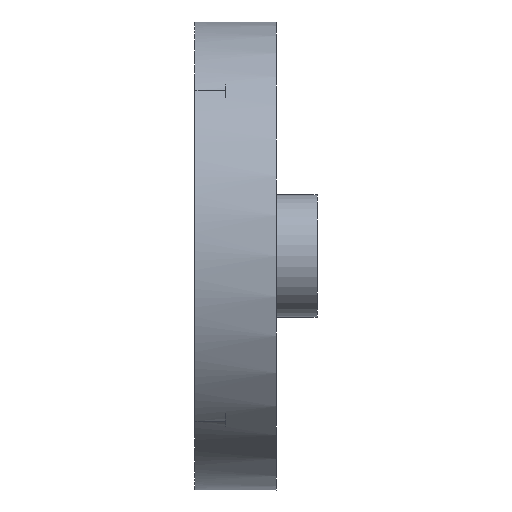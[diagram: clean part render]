
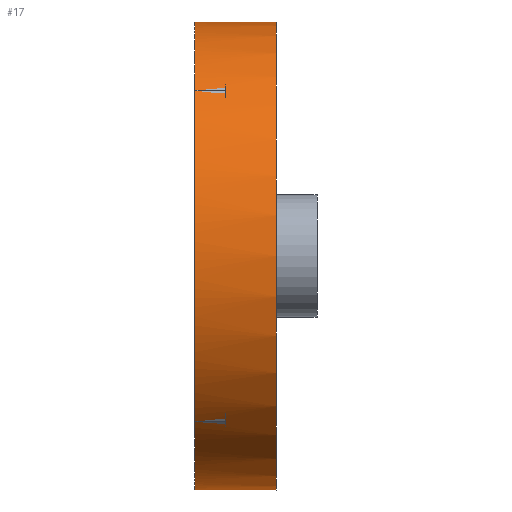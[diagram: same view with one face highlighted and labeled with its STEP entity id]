
A CAD part, front view. The second image highlights one B-rep face of the part: STEP entity #17.
In plain terms, the highlighted cylindrical face has radius 23 mm (diameter 46 mm), a full revolution.
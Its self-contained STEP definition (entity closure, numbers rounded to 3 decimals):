
#17 = ADVANCED_FACE('',(#18),#32,.T.);
#18 = FACE_BOUND('',#19,.F.);
#19 = EDGE_LOOP('',(#20,#50,#79,#103,#127,#151,#173,#174));
#20 = ORIENTED_EDGE('',*,*,#21,.F.);
#21 = EDGE_CURVE('',#22,#24,#26,.T.);
#22 = VERTEX_POINT('',#23);
#23 = CARTESIAN_POINT('',(36.5,23.,0.));
#24 = VERTEX_POINT('',#25);
#25 = CARTESIAN_POINT('',(44.5,23.,0.));
#26 = SEAM_CURVE('',#27,(#31,#43),.PCURVE_S1.);
#27 = LINE('',#28,#29);
#28 = CARTESIAN_POINT('',(36.5,23.,0.));
#29 = VECTOR('',#30,1.);
#30 = DIRECTION('',(1.,0.,0.));
#31 = PCURVE('',#32,#37);
#32 = CYLINDRICAL_SURFACE('',#33,23.);
#33 = AXIS2_PLACEMENT_3D('',#34,#35,#36);
#34 = CARTESIAN_POINT('',(36.5,0.,0.));
#35 = DIRECTION('',(-1.,-0.,-0.));
#36 = DIRECTION('',(0.,1.,0.));
#37 = DEFINITIONAL_REPRESENTATION('',(#38),#42);
#38 = LINE('',#39,#40);
#39 = CARTESIAN_POINT('',(-6.283,0.));
#40 = VECTOR('',#41,1.);
#41 = DIRECTION('',(-0.,-1.));
#42 = ( GEOMETRIC_REPRESENTATION_CONTEXT(2) 
PARAMETRIC_REPRESENTATION_CONTEXT() REPRESENTATION_CONTEXT('2D SPACE',''
  ) );
#43 = PCURVE('',#32,#44);
#44 = DEFINITIONAL_REPRESENTATION('',(#45),#49);
#45 = LINE('',#46,#47);
#46 = CARTESIAN_POINT('',(-0.,0.));
#47 = VECTOR('',#48,1.);
#48 = DIRECTION('',(-0.,-1.));
#49 = ( GEOMETRIC_REPRESENTATION_CONTEXT(2) 
PARAMETRIC_REPRESENTATION_CONTEXT() REPRESENTATION_CONTEXT('2D SPACE',''
  ) );
#50 = ORIENTED_EDGE('',*,*,#51,.F.);
#51 = EDGE_CURVE('',#52,#22,#54,.T.);
#52 = VERTEX_POINT('',#53);
#53 = CARTESIAN_POINT('',(36.5,16.263,-16.263));
#54 = SURFACE_CURVE('',#55,(#60,#67),.PCURVE_S1.);
#55 = CIRCLE('',#56,23.);
#56 = AXIS2_PLACEMENT_3D('',#57,#58,#59);
#57 = CARTESIAN_POINT('',(36.5,0.,0.));
#58 = DIRECTION('',(1.,0.,0.));
#59 = DIRECTION('',(0.,1.,0.));
#60 = PCURVE('',#32,#61);
#61 = DEFINITIONAL_REPRESENTATION('',(#62),#66);
#62 = LINE('',#63,#64);
#63 = CARTESIAN_POINT('',(-0.,0.));
#64 = VECTOR('',#65,1.);
#65 = DIRECTION('',(-1.,0.));
#66 = ( GEOMETRIC_REPRESENTATION_CONTEXT(2) 
PARAMETRIC_REPRESENTATION_CONTEXT() REPRESENTATION_CONTEXT('2D SPACE',''
  ) );
#67 = PCURVE('',#68,#73);
#68 = PLANE('',#69);
#69 = AXIS2_PLACEMENT_3D('',#70,#71,#72);
#70 = CARTESIAN_POINT('',(36.5,0.,0.));
#71 = DIRECTION('',(1.,0.,0.));
#72 = DIRECTION('',(-0.,0.,1.));
#73 = DEFINITIONAL_REPRESENTATION('',(#74),#78);
#74 = CIRCLE('',#75,23.);
#75 = AXIS2_PLACEMENT_2D('',#76,#77);
#76 = CARTESIAN_POINT('',(0.,0.));
#77 = DIRECTION('',(0.,-1.));
#78 = ( GEOMETRIC_REPRESENTATION_CONTEXT(2) 
PARAMETRIC_REPRESENTATION_CONTEXT() REPRESENTATION_CONTEXT('2D SPACE',''
  ) );
#79 = ORIENTED_EDGE('',*,*,#80,.F.);
#80 = EDGE_CURVE('',#81,#52,#83,.T.);
#81 = VERTEX_POINT('',#82);
#82 = CARTESIAN_POINT('',(36.5,-16.263,-16.263));
#83 = SURFACE_CURVE('',#84,(#89,#96),.PCURVE_S1.);
#84 = CIRCLE('',#85,23.);
#85 = AXIS2_PLACEMENT_3D('',#86,#87,#88);
#86 = CARTESIAN_POINT('',(36.5,0.,0.));
#87 = DIRECTION('',(1.,0.,0.));
#88 = DIRECTION('',(0.,1.,0.));
#89 = PCURVE('',#32,#90);
#90 = DEFINITIONAL_REPRESENTATION('',(#91),#95);
#91 = LINE('',#92,#93);
#92 = CARTESIAN_POINT('',(-0.,0.));
#93 = VECTOR('',#94,1.);
#94 = DIRECTION('',(-1.,0.));
#95 = ( GEOMETRIC_REPRESENTATION_CONTEXT(2) 
PARAMETRIC_REPRESENTATION_CONTEXT() REPRESENTATION_CONTEXT('2D SPACE',''
  ) );
#96 = PCURVE('',#68,#97);
#97 = DEFINITIONAL_REPRESENTATION('',(#98),#102);
#98 = CIRCLE('',#99,23.);
#99 = AXIS2_PLACEMENT_2D('',#100,#101);
#100 = CARTESIAN_POINT('',(0.,0.));
#101 = DIRECTION('',(0.,-1.));
#102 = ( GEOMETRIC_REPRESENTATION_CONTEXT(2) 
PARAMETRIC_REPRESENTATION_CONTEXT() REPRESENTATION_CONTEXT('2D SPACE',''
  ) );
#103 = ORIENTED_EDGE('',*,*,#104,.F.);
#104 = EDGE_CURVE('',#105,#81,#107,.T.);
#105 = VERTEX_POINT('',#106);
#106 = CARTESIAN_POINT('',(36.5,-16.263,16.263));
#107 = SURFACE_CURVE('',#108,(#113,#120),.PCURVE_S1.);
#108 = CIRCLE('',#109,23.);
#109 = AXIS2_PLACEMENT_3D('',#110,#111,#112);
#110 = CARTESIAN_POINT('',(36.5,0.,0.));
#111 = DIRECTION('',(1.,0.,0.));
#112 = DIRECTION('',(0.,1.,0.));
#113 = PCURVE('',#32,#114);
#114 = DEFINITIONAL_REPRESENTATION('',(#115),#119);
#115 = LINE('',#116,#117);
#116 = CARTESIAN_POINT('',(-0.,0.));
#117 = VECTOR('',#118,1.);
#118 = DIRECTION('',(-1.,0.));
#119 = ( GEOMETRIC_REPRESENTATION_CONTEXT(2) 
PARAMETRIC_REPRESENTATION_CONTEXT() REPRESENTATION_CONTEXT('2D SPACE',''
  ) );
#120 = PCURVE('',#68,#121);
#121 = DEFINITIONAL_REPRESENTATION('',(#122),#126);
#122 = CIRCLE('',#123,23.);
#123 = AXIS2_PLACEMENT_2D('',#124,#125);
#124 = CARTESIAN_POINT('',(0.,0.));
#125 = DIRECTION('',(0.,-1.));
#126 = ( GEOMETRIC_REPRESENTATION_CONTEXT(2) 
PARAMETRIC_REPRESENTATION_CONTEXT() REPRESENTATION_CONTEXT('2D SPACE',''
  ) );
#127 = ORIENTED_EDGE('',*,*,#128,.F.);
#128 = EDGE_CURVE('',#129,#105,#131,.T.);
#129 = VERTEX_POINT('',#130);
#130 = CARTESIAN_POINT('',(36.5,16.263,16.263));
#131 = SURFACE_CURVE('',#132,(#137,#144),.PCURVE_S1.);
#132 = CIRCLE('',#133,23.);
#133 = AXIS2_PLACEMENT_3D('',#134,#135,#136);
#134 = CARTESIAN_POINT('',(36.5,0.,0.));
#135 = DIRECTION('',(1.,0.,0.));
#136 = DIRECTION('',(0.,1.,0.));
#137 = PCURVE('',#32,#138);
#138 = DEFINITIONAL_REPRESENTATION('',(#139),#143);
#139 = LINE('',#140,#141);
#140 = CARTESIAN_POINT('',(-0.,0.));
#141 = VECTOR('',#142,1.);
#142 = DIRECTION('',(-1.,0.));
#143 = ( GEOMETRIC_REPRESENTATION_CONTEXT(2) 
PARAMETRIC_REPRESENTATION_CONTEXT() REPRESENTATION_CONTEXT('2D SPACE',''
  ) );
#144 = PCURVE('',#68,#145);
#145 = DEFINITIONAL_REPRESENTATION('',(#146),#150);
#146 = CIRCLE('',#147,23.);
#147 = AXIS2_PLACEMENT_2D('',#148,#149);
#148 = CARTESIAN_POINT('',(0.,0.));
#149 = DIRECTION('',(0.,-1.));
#150 = ( GEOMETRIC_REPRESENTATION_CONTEXT(2) 
PARAMETRIC_REPRESENTATION_CONTEXT() REPRESENTATION_CONTEXT('2D SPACE',''
  ) );
#151 = ORIENTED_EDGE('',*,*,#152,.F.);
#152 = EDGE_CURVE('',#22,#129,#153,.T.);
#153 = SURFACE_CURVE('',#154,(#159,#166),.PCURVE_S1.);
#154 = CIRCLE('',#155,23.);
#155 = AXIS2_PLACEMENT_3D('',#156,#157,#158);
#156 = CARTESIAN_POINT('',(36.5,0.,0.));
#157 = DIRECTION('',(1.,0.,0.));
#158 = DIRECTION('',(0.,1.,0.));
#159 = PCURVE('',#32,#160);
#160 = DEFINITIONAL_REPRESENTATION('',(#161),#165);
#161 = LINE('',#162,#163);
#162 = CARTESIAN_POINT('',(-0.,0.));
#163 = VECTOR('',#164,1.);
#164 = DIRECTION('',(-1.,0.));
#165 = ( GEOMETRIC_REPRESENTATION_CONTEXT(2) 
PARAMETRIC_REPRESENTATION_CONTEXT() REPRESENTATION_CONTEXT('2D SPACE',''
  ) );
#166 = PCURVE('',#68,#167);
#167 = DEFINITIONAL_REPRESENTATION('',(#168),#172);
#168 = CIRCLE('',#169,23.);
#169 = AXIS2_PLACEMENT_2D('',#170,#171);
#170 = CARTESIAN_POINT('',(0.,0.));
#171 = DIRECTION('',(0.,-1.));
#172 = ( GEOMETRIC_REPRESENTATION_CONTEXT(2) 
PARAMETRIC_REPRESENTATION_CONTEXT() REPRESENTATION_CONTEXT('2D SPACE',''
  ) );
#173 = ORIENTED_EDGE('',*,*,#21,.T.);
#174 = ORIENTED_EDGE('',*,*,#175,.T.);
#175 = EDGE_CURVE('',#24,#24,#176,.T.);
#176 = SURFACE_CURVE('',#177,(#182,#189),.PCURVE_S1.);
#177 = CIRCLE('',#178,23.);
#178 = AXIS2_PLACEMENT_3D('',#179,#180,#181);
#179 = CARTESIAN_POINT('',(44.5,0.,0.));
#180 = DIRECTION('',(1.,0.,0.));
#181 = DIRECTION('',(0.,1.,0.));
#182 = PCURVE('',#32,#183);
#183 = DEFINITIONAL_REPRESENTATION('',(#184),#188);
#184 = LINE('',#185,#186);
#185 = CARTESIAN_POINT('',(-0.,-8.));
#186 = VECTOR('',#187,1.);
#187 = DIRECTION('',(-1.,0.));
#188 = ( GEOMETRIC_REPRESENTATION_CONTEXT(2) 
PARAMETRIC_REPRESENTATION_CONTEXT() REPRESENTATION_CONTEXT('2D SPACE',''
  ) );
#189 = PCURVE('',#190,#195);
#190 = PLANE('',#191);
#191 = AXIS2_PLACEMENT_3D('',#192,#193,#194);
#192 = CARTESIAN_POINT('',(44.5,0.,0.)
  );
#193 = DIRECTION('',(1.,0.,0.));
#194 = DIRECTION('',(-0.,0.,1.));
#195 = DEFINITIONAL_REPRESENTATION('',(#196),#200);
#196 = CIRCLE('',#197,23.);
#197 = AXIS2_PLACEMENT_2D('',#198,#199);
#198 = CARTESIAN_POINT('',(0.,0.));
#199 = DIRECTION('',(0.,-1.));
#200 = ( GEOMETRIC_REPRESENTATION_CONTEXT(2) 
PARAMETRIC_REPRESENTATION_CONTEXT() REPRESENTATION_CONTEXT('2D SPACE',''
  ) );
